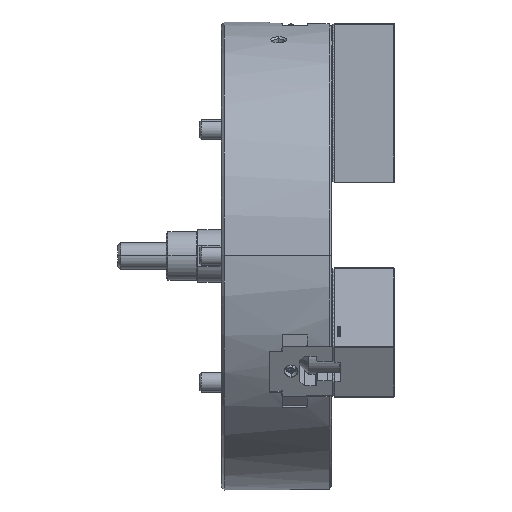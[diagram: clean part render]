
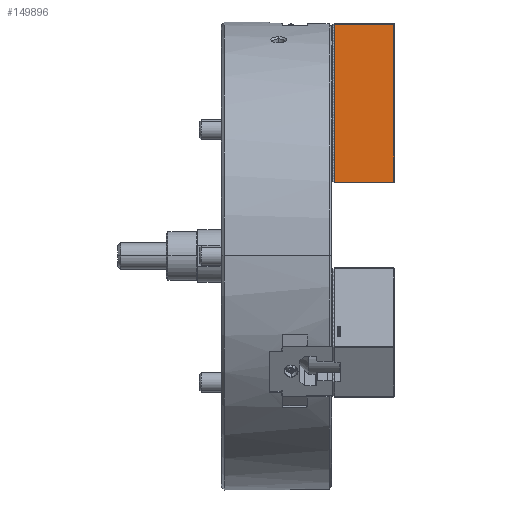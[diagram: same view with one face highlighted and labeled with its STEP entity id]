
A CAD part, top view. The second image highlights one B-rep face of the part: STEP entity #149896.
In plain terms, the highlighted planar face has unit normal (0, 0, 1).
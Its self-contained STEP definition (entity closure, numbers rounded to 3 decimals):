
#1167 = DIRECTION ( 'NONE',  ( -1., 0., 0. ) ) ;
#6358 = LINE ( 'NONE', #76987, #120987 ) ;
#16746 = EDGE_CURVE ( 'NONE', #222215, #228183, #6358, .T. ) ;
#17449 = PLANE ( 'NONE',  #138269 ) ;
#19952 = LINE ( 'NONE', #52395, #220902 ) ;
#36961 = VECTOR ( 'NONE', #156938, 1000. ) ;
#40381 = CARTESIAN_POINT ( 'NONE',  ( 69.4, 0.6, 32.5 ) ) ;
#41349 = VERTEX_POINT ( 'NONE', #214099 ) ;
#52395 = CARTESIAN_POINT ( 'NONE',  ( 70., 179.4, 32.5 ) ) ;
#66639 = CARTESIAN_POINT ( 'NONE',  ( 69.4, 0.6, 32.5 ) ) ;
#70899 = DIRECTION ( 'NONE',  ( -1., 0., 0. ) ) ;
#75284 = CARTESIAN_POINT ( 'NONE',  ( 2.5, 179.4, 32.5 ) ) ;
#76987 = CARTESIAN_POINT ( 'NONE',  ( 70., 0.6, 32.5 ) ) ;
#78924 = ORIENTED_EDGE ( 'NONE', *, *, #16746, .F. ) ;
#86575 = ORIENTED_EDGE ( 'NONE', *, *, #137156, .T. ) ;
#106094 = CARTESIAN_POINT ( 'NONE',  ( 2.5, 180., 32.5 ) ) ;
#114110 = EDGE_CURVE ( 'NONE', #222215, #41349, #136132, .T. ) ;
#120217 = VERTEX_POINT ( 'NONE', #75284 ) ;
#120987 = VECTOR ( 'NONE', #147638, 1000. ) ;
#136132 = LINE ( 'NONE', #66639, #36961 ) ;
#137156 = EDGE_CURVE ( 'NONE', #41349, #120217, #19952, .T. ) ;
#138269 = AXIS2_PLACEMENT_3D ( 'NONE', #159856, #178400, #1167 ) ;
#140186 = FACE_OUTER_BOUND ( 'NONE', #205880, .T. ) ;
#143793 = VECTOR ( 'NONE', #160537, 1000. ) ;
#147638 = DIRECTION ( 'NONE',  ( -1., 0., 0. ) ) ;
#149896 = ADVANCED_FACE ( 'NONE', ( #140186 ), #17449, .F. ) ;
#156938 = DIRECTION ( 'NONE',  ( 0., 1., 0. ) ) ;
#157094 = LINE ( 'NONE', #106094, #143793 ) ;
#159856 = CARTESIAN_POINT ( 'NONE',  ( 70., 0.6, 32.5 ) ) ;
#160537 = DIRECTION ( 'NONE',  ( 0., -1., 0. ) ) ;
#178400 = DIRECTION ( 'NONE',  ( 0., 0., -1. ) ) ;
#183384 = ORIENTED_EDGE ( 'NONE', *, *, #207783, .T. ) ;
#205880 = EDGE_LOOP ( 'NONE', ( #78924, #224952, #86575, #183384 ) ) ;
#207783 = EDGE_CURVE ( 'NONE', #120217, #228183, #157094, .T. ) ;
#214099 = CARTESIAN_POINT ( 'NONE',  ( 69.4, 179.4, 32.5 ) ) ;
#220902 = VECTOR ( 'NONE', #70899, 1000. ) ;
#222215 = VERTEX_POINT ( 'NONE', #40381 ) ;
#224952 = ORIENTED_EDGE ( 'NONE', *, *, #114110, .T. ) ;
#226568 = CARTESIAN_POINT ( 'NONE',  ( 2.5, 0.6, 32.5 ) ) ;
#228183 = VERTEX_POINT ( 'NONE', #226568 ) ;
